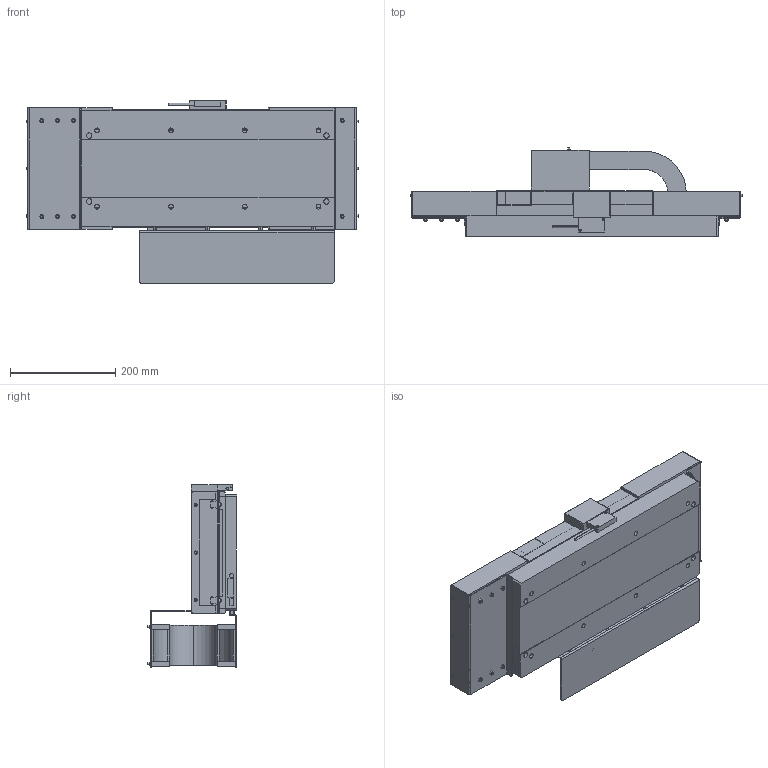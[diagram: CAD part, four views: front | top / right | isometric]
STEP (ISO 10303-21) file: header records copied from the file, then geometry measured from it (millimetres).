
FILE_DESCRIPTION (( 'STEP AP214' ), '1' );
FILE_NAME ('NST-A020##BPJA_#2.00_0.STEP', '2021-05-18T01:58:49', ( '' ), ( '' ), 'SwSTEP 2.0', 'SolidWorks 2018', '' );
FILE_SCHEMA (( 'AUTOMOTIVE_DESIGN' ));
Length unit declared in the file: millimetre
Products named in the file (4): AUA03080; NST-A020##BPJA_#2.00_0; AUA03000; 17YK0790_Org
Assembly tree (3 placements, depth 2):
  NST-A020##BPJA_#2.00_0
    AUA03080
    AUA03000
    17YK0790_Org
Bounding box: 630 x 169 x 347 mm (x, y, z)
Volume: 7466798.8 mm3; surface area: 1394627.6 mm2
Topology: 38 solids, 38 shells, 1272 faces, 3255 edges, 2099 vertices
Faces by surface type: plane 782, cylinder 426, cone 40, torus 16, sphere 8
Entity records: 50891 total; most frequent: CARTESIAN_POINT 7317, DIRECTION 6585, ORIENTED_EDGE 6402, EDGE_CURVE 3201, LINE 2241, VECTOR 2241, AXIS2_PLACEMENT_3D 2172, VERTEX_POINT 2091
